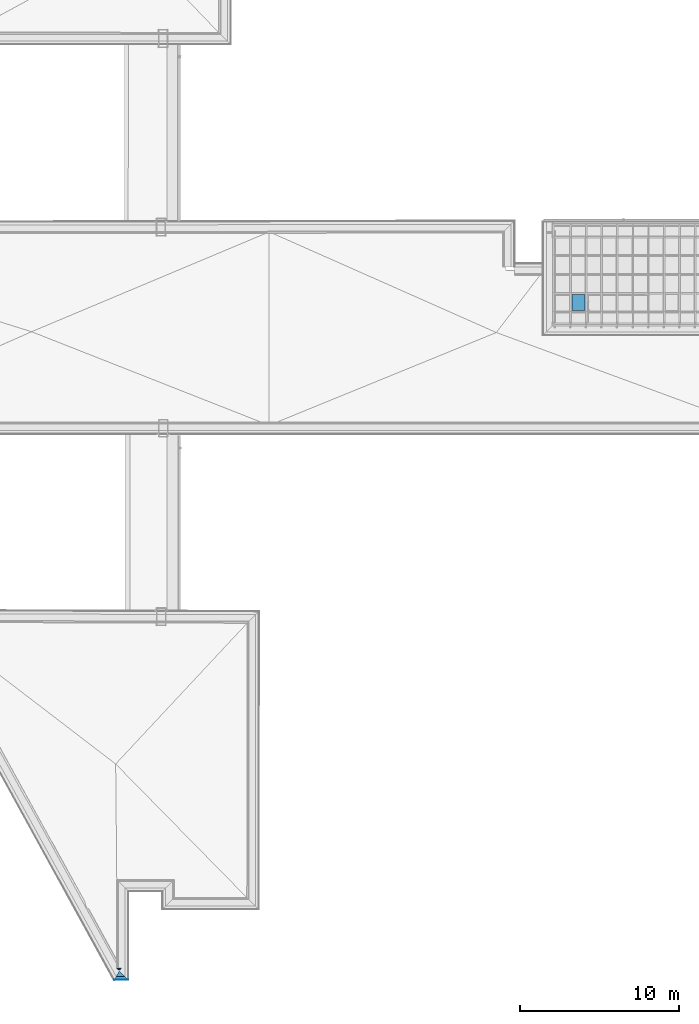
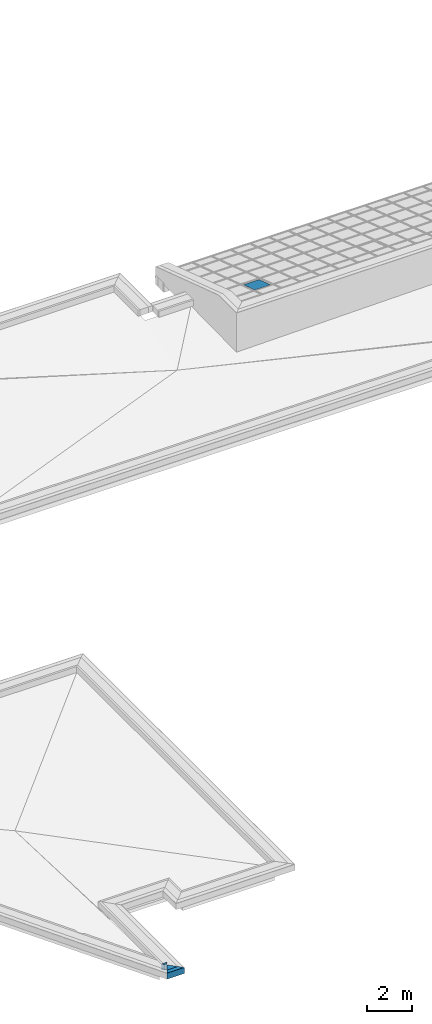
# One storey, part 18 of 47: 5 building element parts, 3 elements without a shape of their own.
"""IFC2X3 building model written with IfcOpenShell, lengths in millimetres."""

from ifc_helpers import new_model, entity, si_unit, converted_unit, derived_unit, money_unit, direction, frame, origin_with_axes, place, context, subcontext, project, spatial, polyline, outline, extrude, faceted_brep, material, type_object, element, aggregate, save


model = new_model("IFC2X3")

# Units and contexts
model_context = context("Model", 3, precision=1e-05, world=origin_with_axes(), true_north=direction((0.0, 1.0)))
body_context = subcontext(model_context, "Body", "Model", "MODEL_VIEW")
ifc_project = project(units=[si_unit("LENGTHUNIT", "METRE", prefix="MILLI"), si_unit("AREAUNIT", "SQUARE_METRE"), si_unit("VOLUMEUNIT", "CUBIC_METRE"), converted_unit("PLANEANGLEUNIT", "DEGREE", entity("IfcPlaneAngleMeasure", 0.0174532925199), si_unit("PLANEANGLEUNIT", "RADIAN"), dimensions=[0, 0, 0, 0, 0, 0, 0]), si_unit("SOLIDANGLEUNIT", "STERADIAN"), money_unit("EUR"), converted_unit("TIMEUNIT", "Year", entity("IfcTimeMeasure", 31556926.0), si_unit("TIMEUNIT", "SECOND"), dimensions=[0, 0, 1, 0, 0, 0, 0]), si_unit("MASSUNIT", "GRAM", prefix="KILO"), si_unit("THERMODYNAMICTEMPERATUREUNIT", "DEGREE_CELSIUS"), si_unit("LUMINOUSINTENSITYUNIT", "LUMEN"), si_unit("ENERGYUNIT", "JOULE", prefix="MEGA"), derived_unit("THERMALCONDUCTANCEUNIT", [(si_unit("POWERUNIT", "WATT"), 1), (si_unit("LENGTHUNIT", "METRE"), -1), (si_unit("THERMODYNAMICTEMPERATUREUNIT", "KELVIN"), -1)]), derived_unit("SPECIFICHEATCAPACITYUNIT", [(si_unit("ENERGYUNIT", "JOULE"), 1), (si_unit("MASSUNIT", "GRAM", prefix="KILO"), -1), (si_unit("THERMODYNAMICTEMPERATUREUNIT", "KELVIN"), -1)]), derived_unit("MASSDENSITYUNIT", [(si_unit("MASSUNIT", "GRAM", prefix="KILO"), 1), (si_unit("VOLUMEUNIT", "CUBIC_METRE"), -1)])], contexts=[model_context])

# Site, building, storey
site_placement = place(None, origin_with_axes())
site = spatial("IfcSite", under=ifc_project, at=site_placement, Name="Site", CompositionType="ELEMENT")
building_placement = place(site_placement, origin_with_axes())
building = spatial("IfcBuilding", under=site, at=building_placement, Name="Building", CompositionType="ELEMENT")
storey_placement = place(building_placement, frame((0.0, 0.0, 6000.0), z_axis=(0.0, 0.0, 1.0), x_axis=(1.0, 0.0, 0.0)))
storey = spatial("IfcBuildingStorey", under=building, at=storey_placement, Name="KATUSEPLAAN", CompositionType="ELEMENT", Elevation=6000.0)

# Wall, building element parts
wall_type = type_object("IfcWallType", Name="VS-4 parapett", PredefinedType="NOTDEFINED")
wall_placement = place(storey_placement, frame((37166.9467048, -55.9065373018, 980.0), z_axis=(0.0, 0.0, 1.0), x_axis=(-1.0, 0.0, 0.0)))
wall = element("IfcWall", 1, at=wall_placement, inside=storey, type_object=wall_type, Name="VS4 parapett")
ifc_material_1 = material(Name="Soojustus - Plastik Kõva")
building_element_part_1_placement = place(wall_placement, origin_with_axes())
building_element_part_1 = element("IfcBuildingElementPart", 2, at=building_element_part_1_placement, material=ifc_material_1, Name="Soojustus - Plastik Kõva", context=body_context, shape_type="SweptSolid", body=[
    extrude(outline(polyline([(530.0, -530.0), (238.310986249, -530.0), (297.437978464, -429.999999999), (430.0, -429.999999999), (530.0, -530.0)])), origin_with_axes(), (0.0, 0.0, 1.0), 320.0),
])
ifc_material_2 = material(Name="Kivi - Ol.Olev Konstruktsioon")
building_element_part_2_placement = place(wall_placement, origin_with_axes())
building_element_part_2 = element("IfcBuildingElementPart", 3, at=building_element_part_2_placement, material=ifc_material_2, Name="Kivi - Ol.Olev Konstruktsioon", context=body_context, shape_type="SweptSolid", body=[
    extrude(outline(polyline([(430.0, -429.999999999), (297.437978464, -429.999999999), (551.68404499, 0.0), (0.0, 0.0), (430.0, -429.999999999)])), origin_with_axes(), (0.0, 0.0, 1.0), 320.0),
])
building_element_part_3_placement = place(wall_placement, origin_with_axes())
building_element_part_3 = element("IfcBuildingElementPart", 4, at=building_element_part_3_placement, material=ifc_material_1, Name="Soojustus - Plastik Kõva", context=body_context, shape_type="SweptSolid", body=[
    extrude(outline(polyline([(0.0, 0.0), (551.68404499, 0.0), (669.938029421, 200.0), (-200.0, 200.0), (0.0, 0.0)])), origin_with_axes(), (0.0, 0.0, 1.0), 320.0),
])
ifc_material_3 = material(Name="Tellis - Viimistlus")
building_element_part_4_placement = place(wall_placement, origin_with_axes())
building_element_part_4 = element("IfcBuildingElementPart", 5, at=building_element_part_4_placement, material=ifc_material_3, Name="Tellis - Viimistlus", context=body_context, shape_type="SweptSolid", body=[
    extrude(outline(polyline([(-200.0, 200.0), (669.938029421, 200.0), (681.763427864, 220.0), (-220.0, 220.0), (-200.0, 200.0)])), origin_with_axes(), (0.0, 0.0, 1.0), 320.0),
])
aggregate(wall, [building_element_part_1, building_element_part_2, building_element_part_3, building_element_part_4])

# Curtain wall, window, building element part
curtain_wall_type = type_object("IfcCurtainWallType", Name="KK-2", PredefinedType="NOTDEFINED")
curtain_wall_placement = place(storey_placement, frame((71638.1505463, 41358.6055567, 722.550081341), z_axis=(0.0, 0.0, 1.0), x_axis=(1.0, 0.0, 0.0)))
curtain_wall = element("IfcCurtainWall", 6, at=curtain_wall_placement, inside=storey, type_object=curtain_wall_type, Name="Talveaja klaaskatus")
window_style = type_object("IfcWindowStyle", Name="Curtain Wall Panel - Window 5 x 5 x 20", ConstructionType="NOTDEFINED", OperationType="NOTDEFINED", ParameterTakesPrecedence=False, Sizeable=False)
window_placement = place(curtain_wall_placement, frame((-5888.99750429, 1072.13073706, 1633.25276662), z_axis=(0.0, 0.0, 1.0), x_axis=(-0.999995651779, 0.00294896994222, 0.0)))
window = element("IfcWindow", 7, at=window_placement, type_object=window_style, Name="Suitsuluuk * CW Window 22")
aggregate(curtain_wall, [window])
ifc_material_4 = material(Name="Klaas (1)")
building_element_part_5_placement = place(window_placement, origin_with_axes())
building_element_part_5 = element("IfcBuildingElementPart", 8, at=building_element_part_5_placement, material=ifc_material_4, Name="Klaas (1)", context=body_context, shape_type="Brep", body=[
    faceted_brep([(401.497280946, -510.315617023, -157.171623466), (-398.499597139, -512.44486067, -157.871326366), (-398.499597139, -507.44980063, -173.071634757), (401.497280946, -505.320556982, -172.371931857), (398.499590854, 506.201035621, 176.871711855), (-401.497287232, 504.071791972, 176.172008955), (-401.497287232, 509.066852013, 160.971700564), (398.499590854, 511.196095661, 161.671403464)], [[[0, 1, 2, 3]], [[0, 4, 5, 1]], [[1, 5, 6, 2]], [[3, 2, 6, 7]], [[4, 0, 3, 7]], [[5, 4, 7, 6]]]),
])
aggregate(window, [building_element_part_5])

save(model, "model.ifc")
